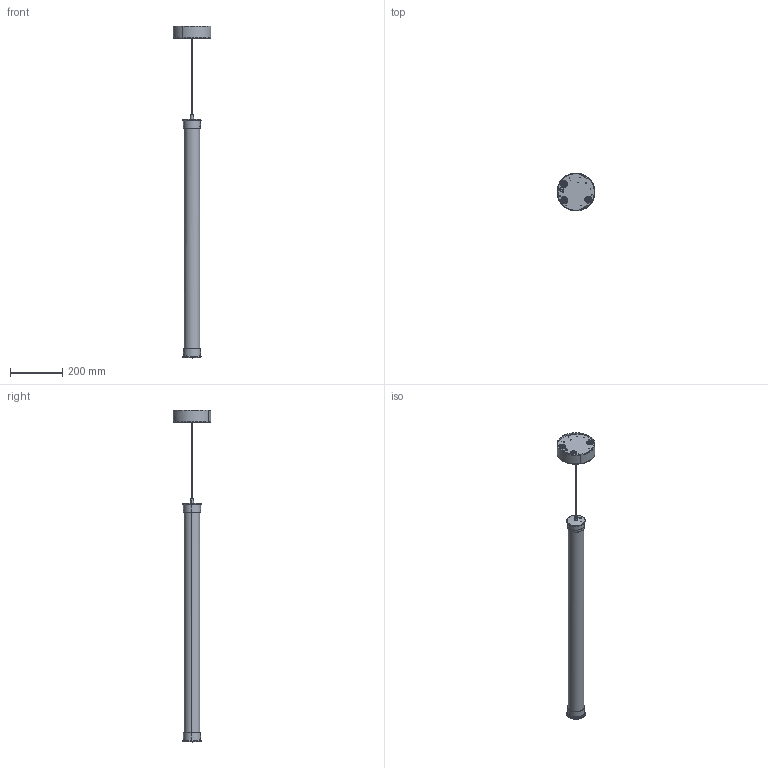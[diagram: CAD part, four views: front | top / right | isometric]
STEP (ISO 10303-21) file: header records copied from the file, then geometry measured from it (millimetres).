
FILE_DESCRIPTION(/* description */ (''),/* implementation_level */ '2;1');
FILE_NAME(/* name */ '00343MP0LD10CEPB - STACKING S 90 V NAKED EMEA',/* time_stamp */ '2023-09-27T17:21:19+02:00',/* author */ (''),/* organization */ (''),/* preprocessor_version */ 'ST-DEVELOPER v16.5',/* originating_system */ 'Rhino 7.27',/* authorisation */ '');
FILE_SCHEMA (('CONFIG_CONTROL_DESIGN'));
Length unit declared in the file: millimetre
Products named in the file (1): Document
Bounding box: 144.93 x 145 x 1267.06 mm (x, y, z)
Volume: 746882 mm3; surface area: 627823.4 mm2
Topology: 18 solids, 18 shells, 625 faces, 1551 edges, 1011 vertices
Faces by surface type: plane 270, cylinder 235, bspline 120
Entity records: 19635 total; most frequent: CARTESIAN_POINT 9274, ORIENTED_EDGE 3082, EDGE_CURVE 1541, VERTEX_POINT 1011, EDGE_LOOP 780, B_SPLINE_CURVE_WITH_KNOTS 738, ADVANCED_FACE 625, FACE_OUTER_BOUND 625
